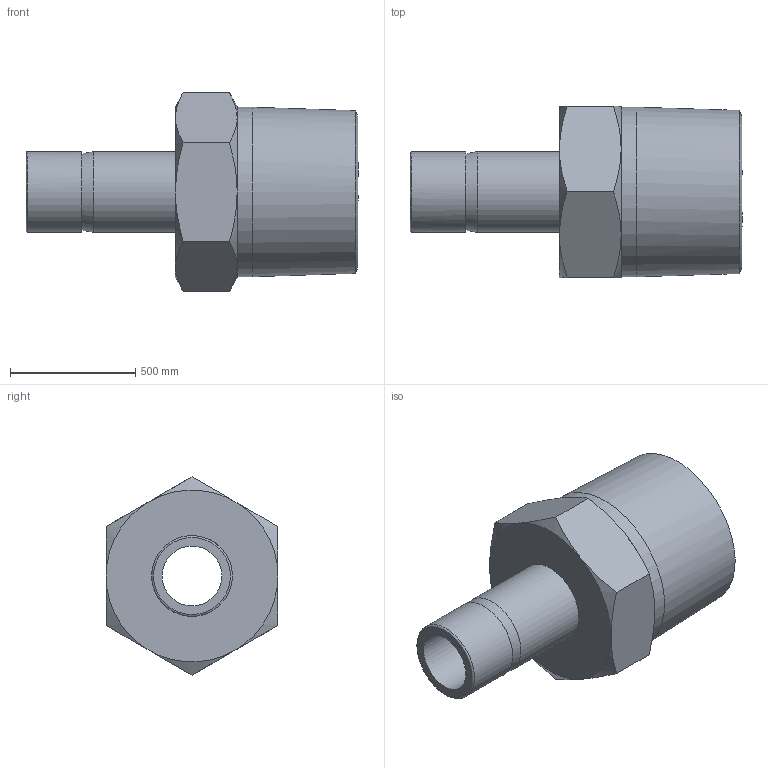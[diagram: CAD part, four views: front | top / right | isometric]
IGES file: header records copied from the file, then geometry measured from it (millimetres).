
Global section: file name: SMA-8-12N; native system: Autodesk Inventor 2016; preprocessor: unknown; author: DESIGNPC2; date: 20151221.103320; units: millimetre
Bounding box: 1325.88 x 685.8 x 791.89 mm (x, y, z)
Volume: 256600754.7 mm3; surface area: 3833800.3 mm2
Topology: 1 solids, 1 shells, 32 faces, 78 edges, 51 vertices
Faces by surface type: bspline 32
